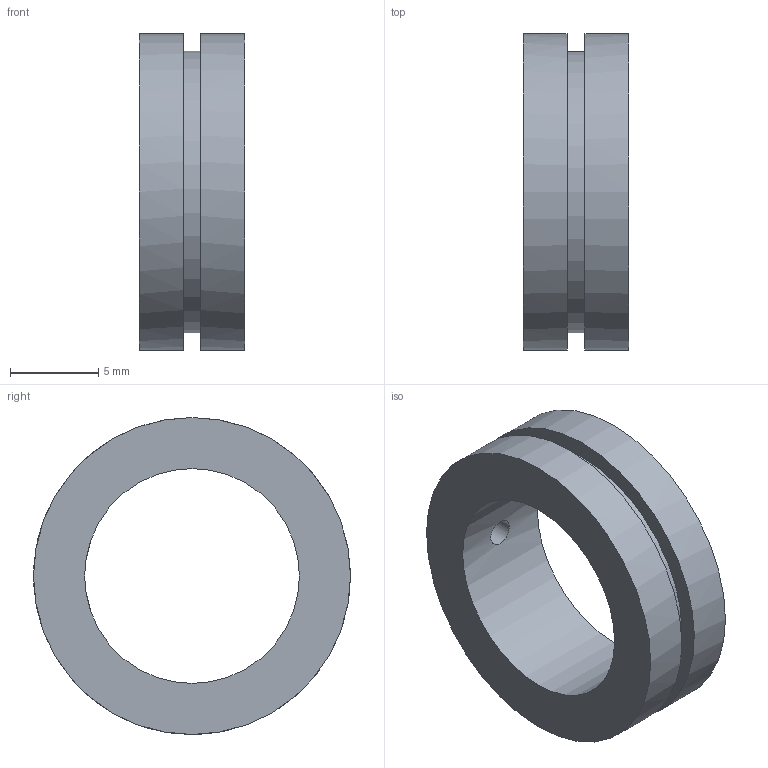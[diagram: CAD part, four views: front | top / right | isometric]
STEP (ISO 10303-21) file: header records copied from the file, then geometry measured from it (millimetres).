
FILE_DESCRIPTION(('FreeCAD Model'),'2;1');
FILE_NAME('Open CASCADE Shape Model','2026-11-20T03:22:07',('FreeCAD'),( 'FreeCAD'),'Open CASCADE STEP processor 7.8','FreeCAD','Unknown');
FILE_SCHEMA(('AUTOMOTIVE_DESIGN { 1 0 10303 214 1 1 1 1 }'));
Length unit declared in the file: millimetre
Products named in the file (1): Open CASCADE STEP translator 7.8 4
Bounding box: 6 x 18 x 18 mm (x, y, z)
Volume: 768.3 mm3; surface area: 950.7 mm2
Topology: 1 solids, 1 shells, 9 faces, 26 edges, 18 vertices
Faces by surface type: cylinder 5, plane 4
Full cylindrical faces by diameter (mm): 1.5 x1, 12.2 x1, 18 x2
Entity records: 398 total; most frequent: CARTESIAN_POINT 138, DIRECTION 52, ORIENTED_EDGE 52, EDGE_CURVE 26, AXIS2_PLACEMENT_3D 22, VERTEX_POINT 18, FACE_BOUND 12, EDGE_LOOP 12
